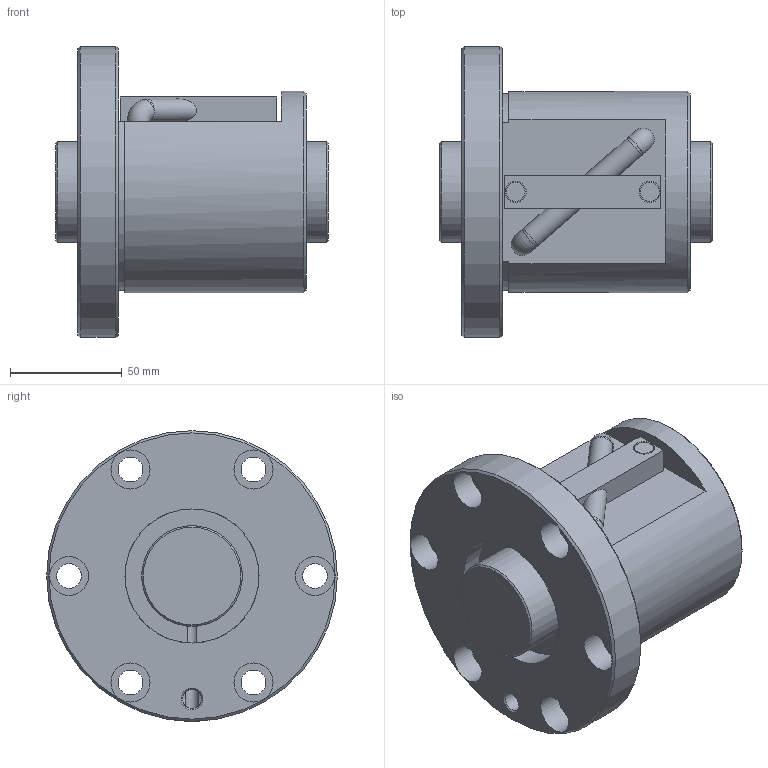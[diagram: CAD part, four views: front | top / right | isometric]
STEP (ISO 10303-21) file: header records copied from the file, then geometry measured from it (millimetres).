
FILE_DESCRIPTION(/* description */ ('STEP AP203'),/* implementation_level */ '2;1');
FILE_NAME(/* name */ 'BNF4520V-2.5RRG1+122LC0_000_rev',/* time_stamp */ '2024-08-06T09:04:41+02:00',/* author */ ('License CC BY-ND 4.0'),/* organization */ ('CADENAS'),/* preprocessor_version */ 'ST-DEVELOPER v19.3',/* originating_system */ 'PARTsolutions',/* authorisation */ ' ');
FILE_SCHEMA (('CONFIG_CONTROL_DESIGN'));
Length unit declared in the file: millimetre
Products named in the file (3): BNF4520V-2.5RRG1+122LC0_000_rev; BNF 4520V-2.5RR000 Shaft; BNF 4520V-2.5RR Nut
Assembly tree (2 placements, depth 2):
  BNF4520V-2.5RRG1+122LC0_000_rev
    BNF 4520V-2.5RR000 Shaft
    BNF 4520V-2.5RR Nut
Bounding box: 122 x 130 x 130 mm (x, y, z)
Volume: 730171.1 mm3; surface area: 99064.1 mm2
Topology: 2 solids, 2 shells, 69 faces, 148 edges, 93 vertices
Faces by surface type: plane 29, cylinder 28, cone 8, sphere 2, torus 2
Full cylindrical faces by diameter (mm): 6 x2, 8.5 x2, 8.566 x1, 9.5 x2, 10.1 x2, 11 x6, 17.5 x6, 45 x2, 60 x2, 90 x1, 130 x1
Entity records: 1797 total; most frequent: CARTESIAN_POINT 360, DIRECTION 304, ORIENTED_EDGE 200, AXIS2_PLACEMENT_3D 141, EDGE_LOOP 137, FACE_BOUND 137, EDGE_CURVE 100, VERTEX_POINT 83
